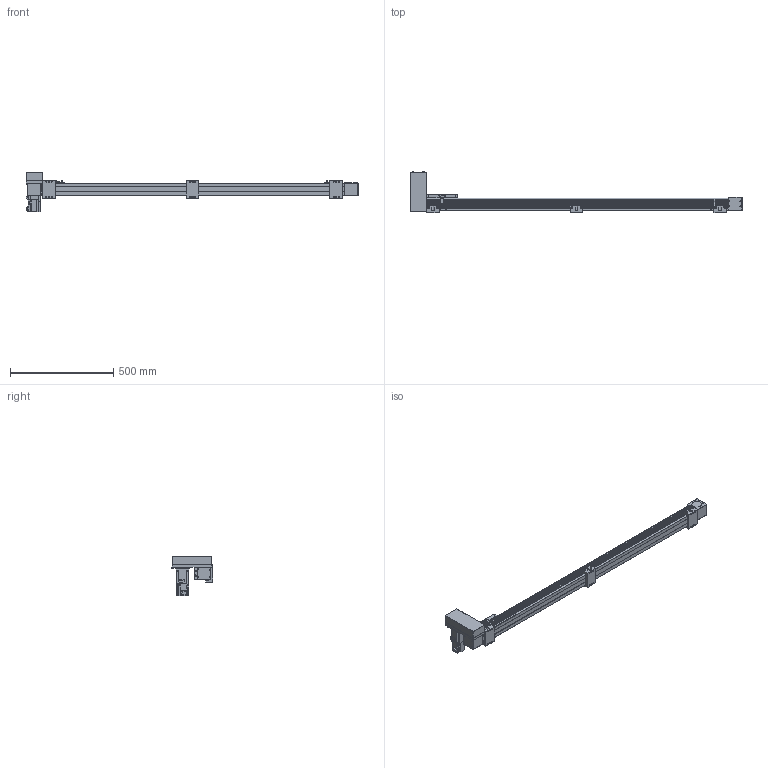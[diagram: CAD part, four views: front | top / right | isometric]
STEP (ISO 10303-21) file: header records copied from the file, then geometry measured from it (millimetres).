
FILE_DESCRIPTION(/* description */ ('STEP AP214'),/* implementation_level */ '2;1');
FILE_NAME(/* name */ 'SK60-P13-S1300-RU-T40-C1-N(0)',/* time_stamp */ '2023-04-06T05:04:09+02:00',/* author */ ('License CC BY-ND 4.0'),/* organization */ ('CADENAS'),/* preprocessor_version */ 'ST-DEVELOPER v19.3',/* originating_system */ 'PARTsolutions',/* authorisation */ ' ');
FILE_SCHEMA (('AUTOMOTIVE_DESIGN {1 0 10303 214 3 1 1}'));
Length unit declared in the file: millimetre
Products named in the file (10): SK60-P13-S1300-RU-T40-C1-N(0); PSC140-sensor; SK60-S450_seat; SK60-S450-BL-C1_slider; SK60_body3; SK60_body6; SK60-BL_body2; T40-p1; SK60-RU_fb; SK60-S1300-RU-C1_body
Assembly tree (17 placements, depth 2):
  SK60-P13-S1300-RU-T40-C1-N(0)
    PSC140-sensor  x3
    SK60-S450_seat  x3
    SK60-S450-BL-C1_slider
    SK60_body3  x3
    SK60_body6  x2
    SK60-BL_body2  x2
    T40-p1
    SK60-RU_fb
    SK60-S1300-RU-C1_body
Bounding box: 1605.5 x 201 x 189.7 mm (x, y, z)
Volume: 6642521 mm3; surface area: 816596.9 mm2
Topology: 17 solids, 17 shells, 854 faces, 2146 edges, 1413 vertices
Faces by surface type: plane 548, cylinder 278, cone 26, torus 2
Full cylindrical faces by diameter (mm): 2.8 x3, 3.3 x4, 4 x2, 4.5 x30, 4.6 x3, 4.917 x20, 5 x6, 5.478 x4, 5.5 x23, 6.5 x6, 7 x2, 8 x4, 8.5 x4, 9.988 x4, 10 x12, 14 x1, 47 x3, 50 x2
Entity records: 18663 total; most frequent: DIRECTION 3186, CARTESIAN_POINT 3151, ORIENTED_EDGE 2940, EDGE_CURVE 1470, AXIS2_PLACEMENT_3D 1069, LINE 1048, VECTOR 1048, VERTEX_POINT 1034
